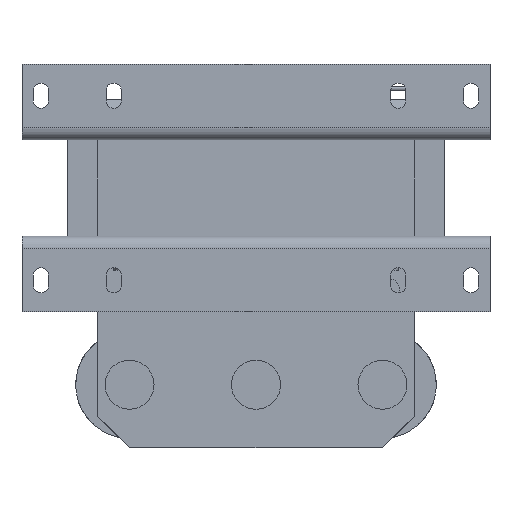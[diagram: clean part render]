
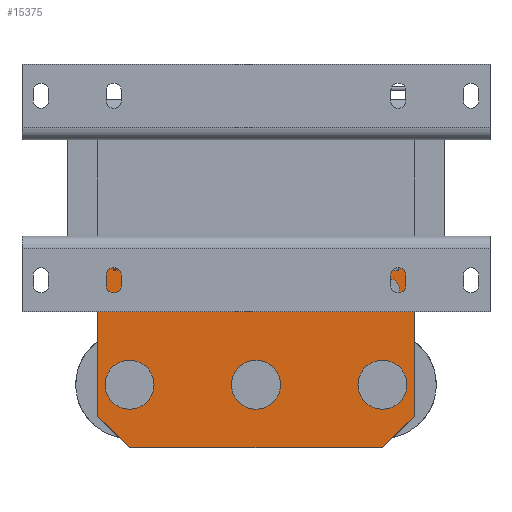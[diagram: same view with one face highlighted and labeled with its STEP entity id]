
A CAD part, front view. The second image highlights one B-rep face of the part: STEP entity #15375.
In plain terms, the highlighted planar face has unit normal (0, -1, 0).
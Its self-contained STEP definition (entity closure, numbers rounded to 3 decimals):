
#99 = ORIENTED_EDGE ( 'NONE', *, *, #15789, .F. ) ;
#154 = CIRCLE ( 'NONE', #11946, 7.75 ) ;
#263 = ORIENTED_EDGE ( 'NONE', *, *, #14368, .T. ) ;
#301 = AXIS2_PLACEMENT_3D ( 'NONE', #12762, #23582, #1201 ) ;
#443 = DIRECTION ( 'NONE',  ( 0., -1., 0. ) ) ;
#610 = ORIENTED_EDGE ( 'NONE', *, *, #8230, .F. ) ;
#828 = DIRECTION ( 'NONE',  ( 0., 1., 0. ) ) ;
#1072 = DIRECTION ( 'NONE',  ( 0., 0., 1. ) ) ;
#1201 = DIRECTION ( 'NONE',  ( 0., 0., 1. ) ) ;
#1321 = CARTESIAN_POINT ( 'NONE',  ( 45.484, 23.5, -32.531 ) ) ;
#1599 = CARTESIAN_POINT ( 'NONE',  ( 50., 23.5, -21.2 ) ) ;
#1600 = CARTESIAN_POINT ( 'NONE',  ( -50., 23.5, -17.2 ) ) ;
#1709 = EDGE_CURVE ( 'NONE', #14075, #19999, #10972, .T. ) ;
#2313 = DIRECTION ( 'NONE',  ( 0., -1., 0. ) ) ;
#2327 = CARTESIAN_POINT ( 'NONE',  ( 38.516, 23.5, -31.869 ) ) ;
#2433 = FACE_OUTER_BOUND ( 'NONE', #19190, .T. ) ;
#2465 = EDGE_CURVE ( 'NONE', #23431, #14258, #22255, .T. ) ;
#2998 = VECTOR ( 'NONE', #14536, 1000. ) ;
#3485 = LINE ( 'NONE', #11011, #12086 ) ;
#3505 = VERTEX_POINT ( 'NONE', #6581 ) ;
#4367 = CARTESIAN_POINT ( 'NONE',  ( 0., 23.5, -54.45 ) ) ;
#4399 = DIRECTION ( 'NONE',  ( 0., -1., 0. ) ) ;
#4432 = AXIS2_PLACEMENT_3D ( 'NONE', #21227, #443, #7944 ) ;
#4920 = EDGE_LOOP ( 'NONE', ( #24031, #19728 ) ) ;
#4935 = LINE ( 'NONE', #10615, #13819 ) ;
#4958 = EDGE_LOOP ( 'NONE', ( #99, #16090 ) ) ;
#5064 = DIRECTION ( 'NONE',  ( 0., 0., -1. ) ) ;
#5254 = CIRCLE ( 'NONE', #22919, 7.75 ) ;
#5540 = VECTOR ( 'NONE', #21234, 1000. ) ;
#5574 = DIRECTION ( 'NONE',  ( -1., 0., 0. ) ) ;
#5635 = CARTESIAN_POINT ( 'NONE',  ( -50., 23.5, -21.2 ) ) ;
#5666 = VECTOR ( 'NONE', #5574, 1000. ) ;
#5743 = DIRECTION ( 'NONE',  ( 0., -1., 0. ) ) ;
#6068 = CARTESIAN_POINT ( 'NONE',  ( 50., 23.5, -82.2 ) ) ;
#6152 = CARTESIAN_POINT ( 'NONE',  ( 50., 23.5, -17.2 ) ) ;
#6189 = ORIENTED_EDGE ( 'NONE', *, *, #15984, .T. ) ;
#6474 = DIRECTION ( 'NONE',  ( 0., 0., 1. ) ) ;
#6581 = CARTESIAN_POINT ( 'NONE',  ( -40., 23.5, -54.45 ) ) ;
#6651 = EDGE_CURVE ( 'NONE', #7394, #3505, #12315, .T. ) ;
#6749 = DIRECTION ( 'NONE',  ( 0., 0., 1. ) ) ;
#7066 = AXIS2_PLACEMENT_3D ( 'NONE', #11767, #15548, #6474 ) ;
#7321 = DIRECTION ( 'NONE',  ( 0., 0., 1. ) ) ;
#7394 = VERTEX_POINT ( 'NONE', #24322 ) ;
#7481 = ORIENTED_EDGE ( 'NONE', *, *, #21781, .T. ) ;
#7590 = LINE ( 'NONE', #11641, #5540 ) ;
#7878 = PLANE ( 'NONE',  #24132 ) ;
#7930 = CARTESIAN_POINT ( 'NONE',  ( 0., 23.5, -69.95 ) ) ;
#7944 = DIRECTION ( 'NONE',  ( 0., 0., 1. ) ) ;
#7992 = AXIS2_PLACEMENT_3D ( 'NONE', #18156, #20483, #7321 ) ;
#8115 = EDGE_CURVE ( 'NONE', #18457, #8579, #5254, .T. ) ;
#8230 = EDGE_CURVE ( 'NONE', #3505, #7394, #9190, .T. ) ;
#8470 = EDGE_CURVE ( 'NONE', #8579, #18457, #154, .T. ) ;
#8579 = VERTEX_POINT ( 'NONE', #4367 ) ;
#8628 = EDGE_CURVE ( 'NONE', #11501, #15510, #15390, .T. ) ;
#8700 = VERTEX_POINT ( 'NONE', #11365 ) ;
#9190 = CIRCLE ( 'NONE', #17406, 7.75 ) ;
#9401 = CARTESIAN_POINT ( 'NONE',  ( 40., 23.5, -82.2 ) ) ;
#9492 = LINE ( 'NONE', #1599, #16742 ) ;
#9561 = CARTESIAN_POINT ( 'NONE',  ( 0., 23.5, -62.2 ) ) ;
#9815 = CIRCLE ( 'NONE', #7066, 7.75 ) ;
#9845 = DIRECTION ( 'NONE',  ( 0., 0., 1. ) ) ;
#10056 = CARTESIAN_POINT ( 'NONE',  ( 40., 23.5, -54.45 ) ) ;
#10606 = CIRCLE ( 'NONE', #16862, 3.5 ) ;
#10615 = CARTESIAN_POINT ( 'NONE',  ( 50., 23.5, -17.2 ) ) ;
#10972 = LINE ( 'NONE', #1600, #2998 ) ;
#10973 = VERTEX_POINT ( 'NONE', #2327 ) ;
#11008 = ORIENTED_EDGE ( 'NONE', *, *, #6651, .F. ) ;
#11011 = CARTESIAN_POINT ( 'NONE',  ( 40., 23.5, -82.2 ) ) ;
#11365 = CARTESIAN_POINT ( 'NONE',  ( 50., 23.5, -21.2 ) ) ;
#11501 = VERTEX_POINT ( 'NONE', #9401 ) ;
#11641 = CARTESIAN_POINT ( 'NONE',  ( -50., 23.5, -72.2 ) ) ;
#11767 = CARTESIAN_POINT ( 'NONE',  ( 40., 23.5, -62.2 ) ) ;
#11788 = EDGE_CURVE ( 'NONE', #8700, #14075, #9492, .T. ) ;
#11808 = DIRECTION ( 'NONE',  ( 0., 1., 0. ) ) ;
#11946 = AXIS2_PLACEMENT_3D ( 'NONE', #9561, #5743, #14842 ) ;
#12086 = VECTOR ( 'NONE', #22180, 1000. ) ;
#12211 = ORIENTED_EDGE ( 'NONE', *, *, #21493, .T. ) ;
#12315 = CIRCLE ( 'NONE', #4432, 7.75 ) ;
#12762 = CARTESIAN_POINT ( 'NONE',  ( 40., 23.5, -62.2 ) ) ;
#13157 = EDGE_LOOP ( 'NONE', ( #6189, #263 ) ) ;
#13819 = VECTOR ( 'NONE', #5064, 1000. ) ;
#13843 = EDGE_LOOP ( 'NONE', ( #610, #11008 ) ) ;
#13975 = ORIENTED_EDGE ( 'NONE', *, *, #8628, .F. ) ;
#14075 = VERTEX_POINT ( 'NONE', #5635 ) ;
#14258 = VERTEX_POINT ( 'NONE', #10056 ) ;
#14350 = ORIENTED_EDGE ( 'NONE', *, *, #19584, .F. ) ;
#14368 = EDGE_CURVE ( 'NONE', #10973, #21347, #22128, .T. ) ;
#14536 = DIRECTION ( 'NONE',  ( 0., 0., -1. ) ) ;
#14842 = DIRECTION ( 'NONE',  ( 0., 0., 1. ) ) ;
#15375 = ADVANCED_FACE ( 'NONE', ( #15473, #19303, #17331, #22984, #2433 ), #7878, .F. ) ;
#15390 = LINE ( 'NONE', #6068, #5666 ) ;
#15473 = FACE_BOUND ( 'NONE', #13157, .T. ) ;
#15510 = VERTEX_POINT ( 'NONE', #23222 ) ;
#15548 = DIRECTION ( 'NONE',  ( 0., -1., 0. ) ) ;
#15789 = EDGE_CURVE ( 'NONE', #14258, #23431, #9815, .T. ) ;
#15984 = EDGE_CURVE ( 'NONE', #21347, #10973, #10606, .T. ) ;
#16037 = ORIENTED_EDGE ( 'NONE', *, *, #11788, .T. ) ;
#16090 = ORIENTED_EDGE ( 'NONE', *, *, #2465, .F. ) ;
#16742 = VECTOR ( 'NONE', #16966, 1000. ) ;
#16862 = AXIS2_PLACEMENT_3D ( 'NONE', #19288, #828, #1072 ) ;
#16966 = DIRECTION ( 'NONE',  ( -1., 0., 0. ) ) ;
#17331 = FACE_BOUND ( 'NONE', #4920, .T. ) ;
#17406 = AXIS2_PLACEMENT_3D ( 'NONE', #21503, #4399, #6749 ) ;
#18069 = CARTESIAN_POINT ( 'NONE',  ( 40., 23.5, -69.95 ) ) ;
#18156 = CARTESIAN_POINT ( 'NONE',  ( 42., 23.5, -32.2 ) ) ;
#18169 = VERTEX_POINT ( 'NONE', #19631 ) ;
#18457 = VERTEX_POINT ( 'NONE', #7930 ) ;
#19041 = CARTESIAN_POINT ( 'NONE',  ( -50., 23.5, -72.2 ) ) ;
#19181 = CARTESIAN_POINT ( 'NONE',  ( 0., 23.5, -62.2 ) ) ;
#19190 = EDGE_LOOP ( 'NONE', ( #7481, #14350, #16037, #20589, #12211, #13975 ) ) ;
#19288 = CARTESIAN_POINT ( 'NONE',  ( 42., 23.5, -32.2 ) ) ;
#19303 = FACE_BOUND ( 'NONE', #13843, .T. ) ;
#19584 = EDGE_CURVE ( 'NONE', #8700, #18169, #4935, .T. ) ;
#19631 = CARTESIAN_POINT ( 'NONE',  ( 50., 23.5, -72.2 ) ) ;
#19728 = ORIENTED_EDGE ( 'NONE', *, *, #8115, .F. ) ;
#19999 = VERTEX_POINT ( 'NONE', #19041 ) ;
#20483 = DIRECTION ( 'NONE',  ( 0., 1., 0. ) ) ;
#20589 = ORIENTED_EDGE ( 'NONE', *, *, #1709, .T. ) ;
#21227 = CARTESIAN_POINT ( 'NONE',  ( -40., 23.5, -62.2 ) ) ;
#21234 = DIRECTION ( 'NONE',  ( 0.707, 0., -0.707 ) ) ;
#21271 = DIRECTION ( 'NONE',  ( 0., 0., 1. ) ) ;
#21347 = VERTEX_POINT ( 'NONE', #1321 ) ;
#21493 = EDGE_CURVE ( 'NONE', #19999, #15510, #7590, .T. ) ;
#21503 = CARTESIAN_POINT ( 'NONE',  ( -40., 23.5, -62.2 ) ) ;
#21781 = EDGE_CURVE ( 'NONE', #11501, #18169, #3485, .T. ) ;
#22128 = CIRCLE ( 'NONE', #7992, 3.5 ) ;
#22180 = DIRECTION ( 'NONE',  ( 0.707, 0., 0.707 ) ) ;
#22255 = CIRCLE ( 'NONE', #301, 7.75 ) ;
#22919 = AXIS2_PLACEMENT_3D ( 'NONE', #19181, #2313, #9845 ) ;
#22984 = FACE_BOUND ( 'NONE', #4958, .T. ) ;
#23222 = CARTESIAN_POINT ( 'NONE',  ( -40., 23.5, -82.2 ) ) ;
#23431 = VERTEX_POINT ( 'NONE', #18069 ) ;
#23582 = DIRECTION ( 'NONE',  ( 0., -1., 0. ) ) ;
#24031 = ORIENTED_EDGE ( 'NONE', *, *, #8470, .F. ) ;
#24132 = AXIS2_PLACEMENT_3D ( 'NONE', #6152, #11808, #21271 ) ;
#24322 = CARTESIAN_POINT ( 'NONE',  ( -40., 23.5, -69.95 ) ) ;
